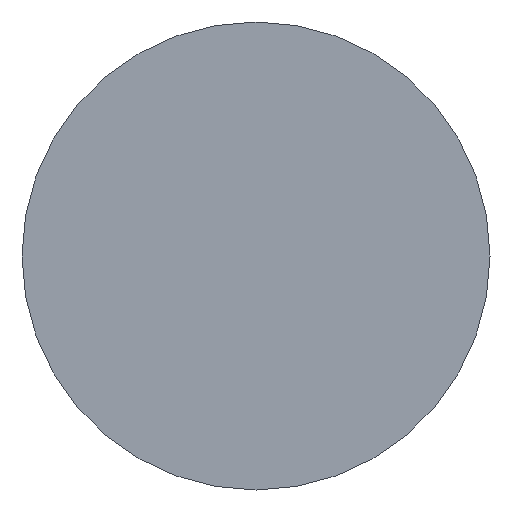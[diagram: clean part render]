
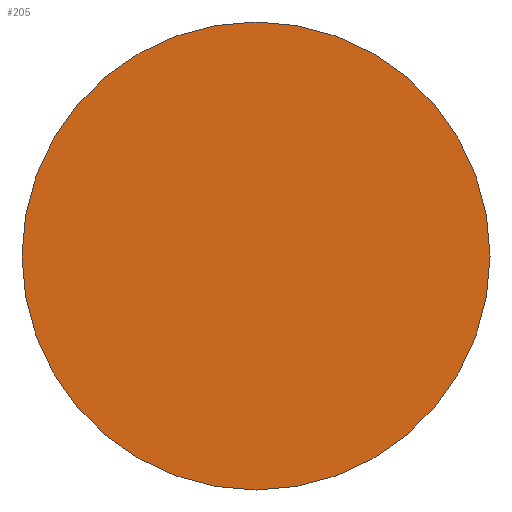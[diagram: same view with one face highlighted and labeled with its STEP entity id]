
A CAD part, front view. The second image highlights one B-rep face of the part: STEP entity #205.
In plain terms, the highlighted planar face has unit normal (0, -1, 0).
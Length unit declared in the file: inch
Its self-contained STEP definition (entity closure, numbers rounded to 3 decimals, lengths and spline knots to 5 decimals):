
#20 = CIRCLE ( 'NONE', #270, 1.75 ) ;
#23 = VERTEX_POINT ( 'NONE', #224 ) ;
#44 = ORIENTED_EDGE ( 'NONE', *, *, #128, .T. ) ;
#51 = CARTESIAN_POINT ( 'NONE',  ( 0., 0., 0. ) ) ;
#58 = DIRECTION ( 'NONE',  ( 0., 0., 1. ) ) ;
#74 = VERTEX_POINT ( 'NONE', #137 ) ;
#87 = CIRCLE ( 'NONE', #194, 1.75 ) ;
#99 = ORIENTED_EDGE ( 'NONE', *, *, #173, .T. ) ;
#106 = EDGE_LOOP ( 'NONE', ( #44, #99 ) ) ;
#112 = CARTESIAN_POINT ( 'NONE',  ( 2., 0., 1.5 ) ) ;
#114 = DIRECTION ( 'NONE',  ( 0., -1., 0. ) ) ;
#128 = EDGE_CURVE ( 'NONE', #23, #74, #20, .T. ) ;
#137 = CARTESIAN_POINT ( 'NONE',  ( 0., 0., 1.75 ) ) ;
#170 = AXIS2_PLACEMENT_3D ( 'NONE', #112, #309, #58 ) ;
#173 = EDGE_CURVE ( 'NONE', #74, #23, #87, .T. ) ;
#183 = DIRECTION ( 'NONE',  ( 0., -1., 0. ) ) ;
#194 = AXIS2_PLACEMENT_3D ( 'NONE', #289, #114, #266 ) ;
#205 = ADVANCED_FACE ( 'NONE', ( #232 ), #207, .F. ) ;
#207 = PLANE ( 'NONE',  #170 ) ;
#224 = CARTESIAN_POINT ( 'NONE',  ( 0., 0., -1.75 ) ) ;
#232 = FACE_OUTER_BOUND ( 'NONE', #106, .T. ) ;
#266 = DIRECTION ( 'NONE',  ( 0., 0., -1. ) ) ;
#270 = AXIS2_PLACEMENT_3D ( 'NONE', #51, #183, #306 ) ;
#289 = CARTESIAN_POINT ( 'NONE',  ( 0., 0., 0. ) ) ;
#306 = DIRECTION ( 'NONE',  ( 0., 0., -1. ) ) ;
#309 = DIRECTION ( 'NONE',  ( 0., 1., 0. ) ) ;
